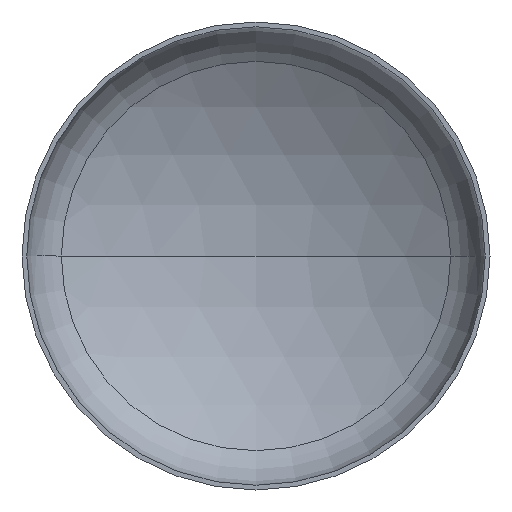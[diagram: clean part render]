
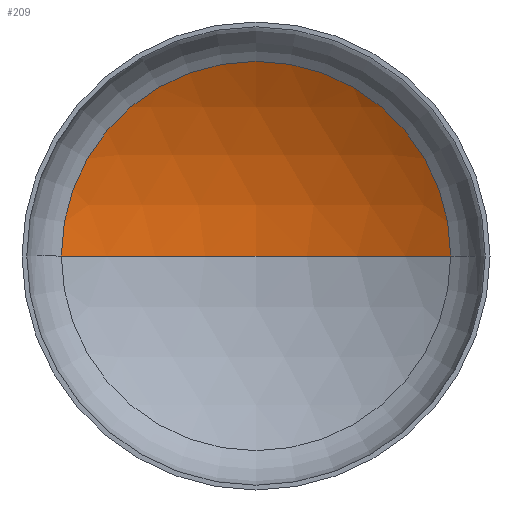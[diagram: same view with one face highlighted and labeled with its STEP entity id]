
A CAD part, front view. The second image highlights one B-rep face of the part: STEP entity #209.
In plain terms, the highlighted spherical face has radius 5200 mm.
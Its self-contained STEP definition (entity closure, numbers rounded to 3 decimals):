
#27 = DIRECTION ( 'NONE',  ( -1., 0., 0. ) ) ;
#29 = AXIS2_PLACEMENT_3D ( 'NONE', #228, #264, #27 ) ;
#35 = ORIENTED_EDGE ( 'NONE', *, *, #101, .F. ) ;
#42 = VERTEX_POINT ( 'NONE', #340 ) ;
#53 = AXIS2_PLACEMENT_3D ( 'NONE', #289, #212, #208 ) ;
#55 = AXIS2_PLACEMENT_3D ( 'NONE', #179, #189, #191 ) ;
#59 = AXIS2_PLACEMENT_3D ( 'NONE', #297, #296, #282 ) ;
#98 = EDGE_CURVE ( 'NONE', #162, #42, #225, .T. ) ;
#99 = EDGE_CURVE ( 'NONE', #119, #162, #397, .T. ) ;
#101 = EDGE_CURVE ( 'NONE', #119, #42, #337, .T. ) ;
#119 = VERTEX_POINT ( 'NONE', #194 ) ;
#144 = EDGE_LOOP ( 'NONE', ( #35, #155, #161 ) ) ;
#155 = ORIENTED_EDGE ( 'NONE', *, *, #99, .T. ) ;
#161 = ORIENTED_EDGE ( 'NONE', *, *, #98, .T. ) ;
#162 = VERTEX_POINT ( 'NONE', #249 ) ;
#179 = CARTESIAN_POINT ( 'NONE',  ( 0., -3467.498, 0. ) ) ;
#189 = DIRECTION ( 'NONE',  ( 0., 0., -1. ) ) ;
#191 = DIRECTION ( 'NONE',  ( -1., 0., 0. ) ) ;
#194 = CARTESIAN_POINT ( 'NONE',  ( 0., 1732.502, 0. ) ) ;
#199 = SPHERICAL_SURFACE ( 'NONE', #29, 5200. ) ;
#208 = DIRECTION ( 'NONE',  ( 1., 0., 0. ) ) ;
#209 = ADVANCED_FACE ( 'NONE', ( #322 ), #199, .F. ) ;
#212 = DIRECTION ( 'NONE',  ( 0., 0., 1. ) ) ;
#225 = CIRCLE ( 'NONE', #59, 2704. ) ;
#228 = CARTESIAN_POINT ( 'NONE',  ( 0., -3467.498, 0. ) ) ;
#249 = CARTESIAN_POINT ( 'NONE',  ( 2704., 974.166, 0. ) ) ;
#264 = DIRECTION ( 'NONE',  ( 0., 0., -1. ) ) ;
#282 = DIRECTION ( 'NONE',  ( 1., 0., 0. ) ) ;
#289 = CARTESIAN_POINT ( 'NONE',  ( 0., -3467.498, 0. ) ) ;
#296 = DIRECTION ( 'NONE',  ( 0., -1., 0. ) ) ;
#297 = CARTESIAN_POINT ( 'NONE',  ( 0., 974.166, 0. ) ) ;
#322 = FACE_OUTER_BOUND ( 'NONE', #144, .T. ) ;
#337 = CIRCLE ( 'NONE', #53, 5200. ) ;
#340 = CARTESIAN_POINT ( 'NONE',  ( -2704., 974.166, 0. ) ) ;
#397 = CIRCLE ( 'NONE', #55, 5200. ) ;
